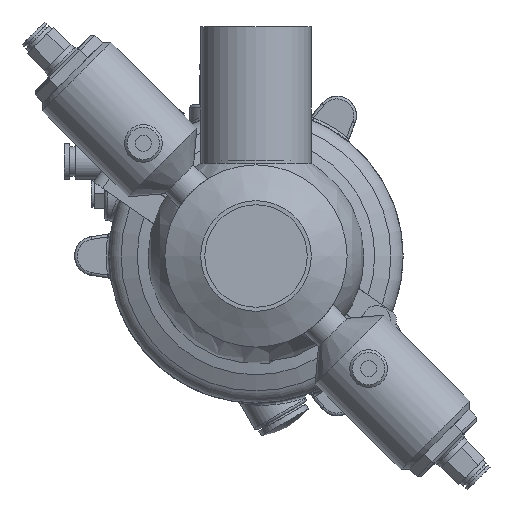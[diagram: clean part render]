
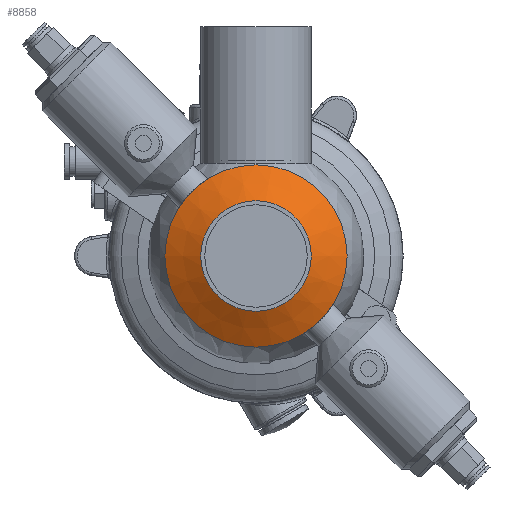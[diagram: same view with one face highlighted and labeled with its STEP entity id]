
A CAD part, front view. The second image highlights one B-rep face of the part: STEP entity #8858.
In plain terms, the highlighted conical face has half-angle 60 degrees and reference radius 33.75 mm.
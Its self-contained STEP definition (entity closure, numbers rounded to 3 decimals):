
#1246 = ORIENTED_EDGE ( 'NONE', *, *, #35470, .T. ) ;
#2909 = CARTESIAN_POINT ( 'NONE',  ( 0., -49.65, 20.5 ) ) ;
#4727 = FACE_BOUND ( 'NONE', #58136, .T. ) ;
#6792 = EDGE_LOOP ( 'NONE', ( #12833 ) ) ;
#8858 = ADVANCED_FACE ( 'NONE', ( #4727, #29993 ), #21148, .T. ) ;
#10785 = DIRECTION ( 'NONE',  ( 0., 0., 1. ) ) ;
#12833 = ORIENTED_EDGE ( 'NONE', *, *, #28895, .F. ) ;
#13303 = DIRECTION ( 'NONE',  ( 0., 0., 1. ) ) ;
#20099 = AXIS2_PLACEMENT_3D ( 'NONE', #29687, #28764, #58031 ) ;
#21148 = CONICAL_SURFACE ( 'NONE', #20099, 33.75, 1.047 ) ;
#25964 = DIRECTION ( 'NONE',  ( 0., 1., 0. ) ) ;
#28764 = DIRECTION ( 'NONE',  ( 0., 1., 0. ) ) ;
#28895 = EDGE_CURVE ( 'NONE', #39606, #39606, #34389, .T. ) ;
#29687 = CARTESIAN_POINT ( 'NONE',  ( 0., -42., 0. ) ) ;
#29993 = FACE_OUTER_BOUND ( 'NONE', #6792, .T. ) ;
#30123 = CARTESIAN_POINT ( 'NONE',  ( 0., -42., 33.75 ) ) ;
#30255 = AXIS2_PLACEMENT_3D ( 'NONE', #47055, #42054, #13303 ) ;
#34389 = CIRCLE ( 'NONE', #48392, 33.75 ) ;
#35470 = EDGE_CURVE ( 'NONE', #46186, #46186, #57423, .T. ) ;
#39606 = VERTEX_POINT ( 'NONE', #30123 ) ;
#42054 = DIRECTION ( 'NONE',  ( 0., 1., 0. ) ) ;
#44645 = CARTESIAN_POINT ( 'NONE',  ( 0., -42., 0. ) ) ;
#46186 = VERTEX_POINT ( 'NONE', #2909 ) ;
#47055 = CARTESIAN_POINT ( 'NONE',  ( 0., -49.65, 0. ) ) ;
#48392 = AXIS2_PLACEMENT_3D ( 'NONE', #44645, #25964, #10785 ) ;
#57423 = CIRCLE ( 'NONE', #30255, 20.5 ) ;
#58031 = DIRECTION ( 'NONE',  ( 0., 0., 1. ) ) ;
#58136 = EDGE_LOOP ( 'NONE', ( #1246 ) ) ;
